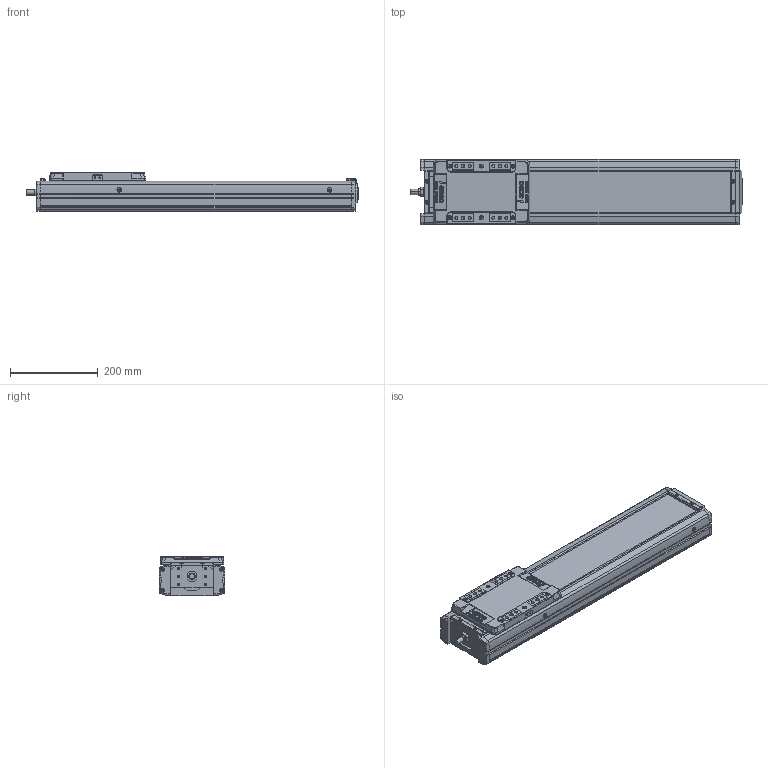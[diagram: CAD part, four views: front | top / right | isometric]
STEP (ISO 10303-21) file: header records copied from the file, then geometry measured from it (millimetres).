
FILE_DESCRIPTION(('STEP AP214'),'1');
FILE_NAME('Z:/Web/3D/SAN150/2013.04 (STP.)/SAN150ㅁㅁ-450.stp','2013-05-07T23:35:07',(' '),(' '),'Spatial InterOp 3D',' ',' ');
FILE_SCHEMA(('automotive_design'));
Length unit declared in the file: millimetre
Products named in the file (35): SLBL-SAN150; SLCV-SAN150; FHCS M4.0 x 8.0; BHCS M4.0 x 10.0; SFX-SAN150; RRCV-SAN150; FRBL-SAN150; Spacer; RN15; FRCV-SAN150; Screw 20; BASE-SAN150-000L ; SUS COVER; 스크루 : Round - M5.0 x 6.0
Bounding box: 758 x 150 x 90 mm (x, y, z)
Volume: 4353502.8 mm3; surface area: 810577 mm2
Topology: 35 solids, 35 shells, 1989 faces, 5127 edges, 3272 vertices
Faces by surface type: plane 979, cylinder 703, cone 226, sphere 48, bspline 21, torus 12
Entity records: 78913 total; most frequent: CARTESIAN_POINT 12877, DIRECTION 10814, ORIENTED_EDGE 10054, EDGE_CURVE 5027, AXIS2_PLACEMENT_3D 3864, VERTEX_POINT 3272, LINE 3086, VECTOR 3086
